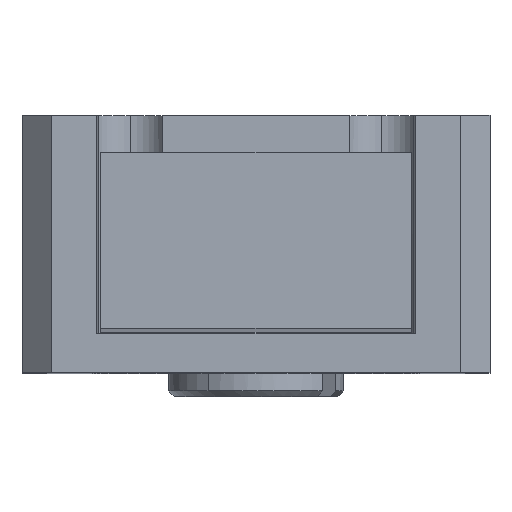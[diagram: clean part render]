
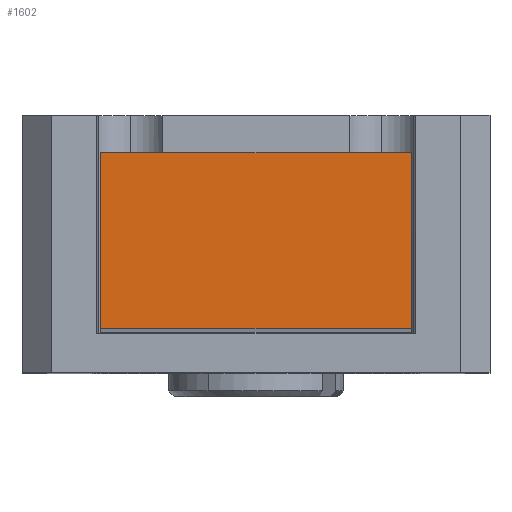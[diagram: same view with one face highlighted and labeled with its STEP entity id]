
A CAD part, top view. The second image highlights one B-rep face of the part: STEP entity #1602.
In plain terms, the highlighted planar face has unit normal (0, 0, 1).
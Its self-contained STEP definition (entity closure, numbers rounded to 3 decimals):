
#28 = VECTOR ( 'NONE', #93, 1000. ) ;
#90 = DIRECTION ( 'NONE',  ( 1., 0., 0. ) ) ;
#93 = DIRECTION ( 'NONE',  ( 1., 0., 0. ) ) ;
#110 = VERTEX_POINT ( 'NONE', #1358 ) ;
#184 = VERTEX_POINT ( 'NONE', #1430 ) ;
#231 = AXIS2_PLACEMENT_3D ( 'NONE', #1847, #746, #90 ) ;
#267 = CARTESIAN_POINT ( 'NONE',  ( 1.576, 22.2, 38.78 ) ) ;
#354 = LINE ( 'NONE', #928, #1089 ) ;
#562 = PLANE ( 'NONE',  #231 ) ;
#582 = LINE ( 'NONE', #267, #1849 ) ;
#746 = DIRECTION ( 'NONE',  ( 0., 0., 1. ) ) ;
#750 = FACE_OUTER_BOUND ( 'NONE', #1101, .T. ) ;
#755 = DIRECTION ( 'NONE',  ( 0., -1., 0. ) ) ;
#757 = LINE ( 'NONE', #1326, #1029 ) ;
#817 = LINE ( 'NONE', #1085, #28 ) ;
#863 = ORIENTED_EDGE ( 'NONE', *, *, #1284, .T. ) ;
#910 = EDGE_CURVE ( 'NONE', #2010, #110, #354, .T. ) ;
#928 = CARTESIAN_POINT ( 'NONE',  ( 6.876, 22.2, 38.78 ) ) ;
#950 = EDGE_CURVE ( 'NONE', #184, #2010, #817, .T. ) ;
#1022 = VERTEX_POINT ( 'NONE', #1425 ) ;
#1029 = VECTOR ( 'NONE', #1807, 1000. ) ;
#1063 = ORIENTED_EDGE ( 'NONE', *, *, #910, .T. ) ;
#1085 = CARTESIAN_POINT ( 'NONE',  ( 1.576, 19.2, 38.78 ) ) ;
#1089 = VECTOR ( 'NONE', #2042, 1000. ) ;
#1101 = EDGE_LOOP ( 'NONE', ( #1063, #1228, #863, #1577 ) ) ;
#1228 = ORIENTED_EDGE ( 'NONE', *, *, #1960, .T. ) ;
#1284 = EDGE_CURVE ( 'NONE', #1022, #184, #582, .T. ) ;
#1326 = CARTESIAN_POINT ( 'NONE',  ( 6.876, 22.2, 38.78 ) ) ;
#1358 = CARTESIAN_POINT ( 'NONE',  ( 6.876, 22.2, 38.78 ) ) ;
#1425 = CARTESIAN_POINT ( 'NONE',  ( 1.576, 22.2, 38.78 ) ) ;
#1430 = CARTESIAN_POINT ( 'NONE',  ( 1.576, 19.2, 38.78 ) ) ;
#1469 = CARTESIAN_POINT ( 'NONE',  ( 6.876, 19.2, 38.78 ) ) ;
#1577 = ORIENTED_EDGE ( 'NONE', *, *, #950, .T. ) ;
#1602 = ADVANCED_FACE ( 'NONE', ( #750 ), #562, .T. ) ;
#1807 = DIRECTION ( 'NONE',  ( -1., 0., 0. ) ) ;
#1847 = CARTESIAN_POINT ( 'NONE',  ( 6.876, 19.2, 38.78 ) ) ;
#1849 = VECTOR ( 'NONE', #755, 1000. ) ;
#1960 = EDGE_CURVE ( 'NONE', #110, #1022, #757, .T. ) ;
#2010 = VERTEX_POINT ( 'NONE', #1469 ) ;
#2042 = DIRECTION ( 'NONE',  ( 0., 1., 0. ) ) ;
